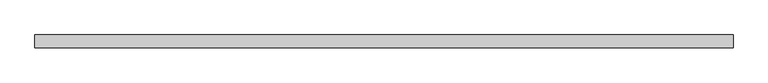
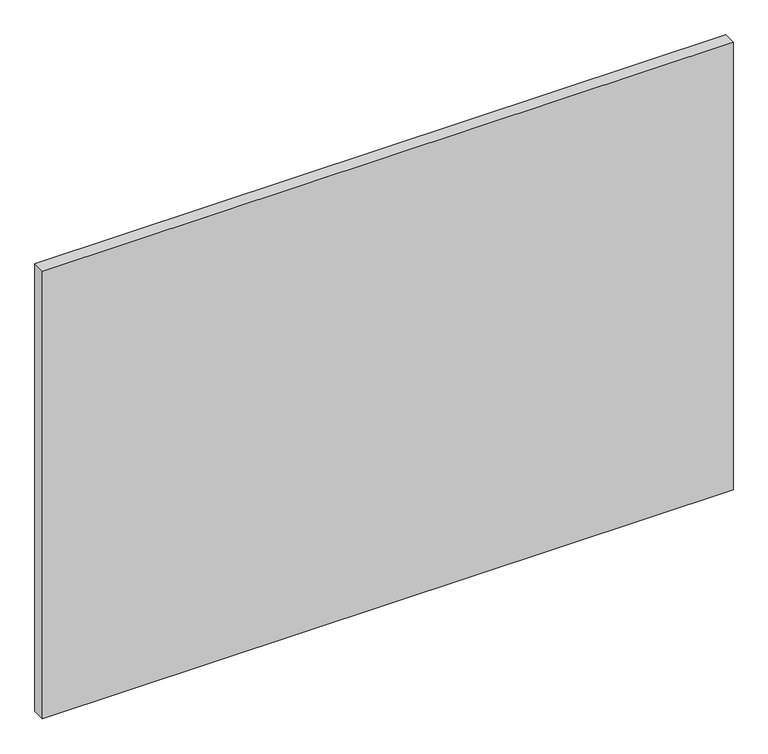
"""IFC4 building model written with IfcOpenShell, lengths in millimetres: plate geometry, Системная панель : ADSK_Cтеклопакет_25."""

import ifcopenshell
import ifcopenshell.guid

model = None  # the IFC model being written
_history = None  # IfcOwnerHistory: only IFC2X3 demands one
_inside = {}  # id of a spatial element -> (the spatial element, [elements in it])
_under = {}  # id of a project, library or spatial element -> (it, [spatial elements below it])
_declared = {}  # id of a project -> (the project, [libraries it declares])
_typed = {}  # id of a type object -> (the type object, [elements of that type])
_made_of = {}  # id of a material, layer set ... -> (it, [elements and type objects made of it])


def new_model(schema):
    """Start an empty IFC model of exactly this schema.

    Asked for "IFC4X3", IfcOpenShell would pick the latest addendum, in which some entities
    have other attributes; the version numbers below select the first issue.
    IFC2X3 requires an IfcOwnerHistory on every rooted entity: one is made here for all.
    """
    global model, _history
    if schema == "IFC4X3":
        model = ifcopenshell.file(schema_version=(4, 3, 0, 0))
    else:
        model = ifcopenshell.file(schema=schema)
    _inside.clear()
    _under.clear()
    _declared.clear()
    _typed.clear()
    _made_of.clear()
    _history = None
    if model.schema == "IFC2X3":
        org = make("IfcOrganization", Name="unknown")
        user = make(
            "IfcPersonAndOrganization",
            ThePerson=make("IfcPerson", FamilyName="unknown"),
            TheOrganization=org,
        )
        app = make(
            "IfcApplication",
            ApplicationDeveloper=org,
            Version="unknown",
            ApplicationFullName="unknown",
            ApplicationIdentifier="unknown",
        )
        _history = make(
            "IfcOwnerHistory",
            OwningUser=user,
            OwningApplication=app,
            ChangeAction="ADDED",
            CreationDate=0,
        )
    return model


def make(cls, **values):
    """One entity of the class cls with the attributes given. An attribute that is None is left unset."""
    return model.create_entity(
        cls, **{name: value for name, value in values.items() if value is not None}
    )


def rooted(cls, **values):
    """An entity with a GlobalId (a new one), such as an element, a storey or a relation."""
    return make(cls, GlobalId=ifcopenshell.guid.new(), OwnerHistory=_history, **values)


def si_unit(unit_type, name, prefix=None):
    """IfcSIUnit, for example si_unit("LENGTHUNIT", "METRE", prefix="MILLI")."""
    return make("IfcSIUnit", UnitType=unit_type, Prefix=prefix, Name=name)


def assignment(units):
    """IfcUnitAssignment: the units of a project."""
    return None if units is None else make("IfcUnitAssignment", Units=units)


def point(xyz):
    """IfcCartesianPoint."""
    return None if xyz is None else make("IfcCartesianPoint", Coordinates=xyz)


def direction(xyz):
    """IfcDirection."""
    return None if xyz is None else make("IfcDirection", DirectionRatios=xyz)


def frame(location, z_axis=None, x_axis=None):
    """IfcAxis2Placement3D, a coordinate frame: its origin and axes. An axis left out is left unset."""
    return make(
        "IfcAxis2Placement3D",
        Location=point(location),
        Axis=direction(z_axis),
        RefDirection=direction(x_axis),
    )


def origin():
    """The frame at (0, 0, 0) with its axes left unset."""
    return frame((0.0, 0.0, 0.0))


def origin_with_axes():
    """The frame at (0, 0, 0) with the z axis (0, 0, 1) and the x axis (1, 0, 0) written out."""
    return frame((0.0, 0.0, 0.0), z_axis=(0.0, 0.0, 1.0), x_axis=(1.0, 0.0, 0.0))


def place(relative_to, where):
    """IfcLocalPlacement: puts the frame where relative to a parent placement (None: the world)."""
    return make(
        "IfcLocalPlacement", PlacementRelTo=relative_to, RelativePlacement=where
    )


def context(
    kind, dimensions, precision=None, world=None, true_north=None, identifier=None
):
    """IfcGeometricRepresentationContext, for example the 3D "Model" context."""
    return make(
        "IfcGeometricRepresentationContext",
        ContextIdentifier=identifier,
        ContextType=kind,
        CoordinateSpaceDimension=dimensions,
        Precision=precision,
        WorldCoordinateSystem=world,
        TrueNorth=true_north,
    )


def project(units=None, contexts=None):
    """IfcProject with its units and contexts."""
    return rooted(
        "IfcProject",
        Name="project",
        RepresentationContexts=contexts,
        UnitsInContext=assignment(units),
    )


def spatial(cls, under=None, at=None, **own):
    """A site, building, storey or space (cls), placed at a placement, below another one or the project."""
    s = rooted(cls, ObjectPlacement=at, **own)
    if under is not None:
        _under.setdefault(under.id(), (under, []))[1].append(s)
    return s


def polyline(points):
    """IfcPolyline through the points."""
    return make("IfcPolyline", Points=[point(p) for p in points])


def outline(outer, holes=None, kind="AREA"):
    """IfcArbitraryClosedProfileDef: a profile drawn as a closed curve; with holes, ...WithVoids."""
    if holes is None:
        return make("IfcArbitraryClosedProfileDef", ProfileType=kind, OuterCurve=outer)
    return make(
        "IfcArbitraryProfileDefWithVoids",
        ProfileType=kind,
        OuterCurve=outer,
        InnerCurves=holes,
    )


def extrude(swept, where, along, depth):
    """IfcExtrudedAreaSolid: the profile swept, set in the frame where, extruded along a direction by depth."""
    return make(
        "IfcExtrudedAreaSolid",
        SweptArea=swept,
        Position=where,
        ExtrudedDirection=direction(along),
        Depth=depth,
    )


def shape(context_of_items, identifier, shape_type, items):
    """IfcShapeRepresentation: the items that make up one representation, for example the "Body"."""
    return make(
        "IfcShapeRepresentation",
        ContextOfItems=context_of_items,
        RepresentationIdentifier=identifier,
        RepresentationType=shape_type,
        Items=items,
    )


def source(mapping_origin, context_of_items, identifier, shape_type, items):
    """IfcRepresentationMap: a shape defined once, which mapped items show again and again."""
    return make(
        "IfcRepresentationMap",
        MappingOrigin=mapping_origin,
        MappedRepresentation=shape(context_of_items, identifier, shape_type, items),
    )


def transform(
    local_origin,
    x_axis=None,
    y_axis=None,
    z_axis=None,
    scale=None,
    scale2=None,
    scale3=None,
    uniform=True,
):
    """IfcCartesianTransformationOperator3D, or its non-uniform kind. x_axis, y_axis, z_axis: its Axis1, 2, 3."""
    if uniform:
        return make(
            "IfcCartesianTransformationOperator3D",
            Axis1=direction(x_axis),
            Axis2=direction(y_axis),
            LocalOrigin=point(local_origin),
            Scale=scale,
            Axis3=direction(z_axis),
        )
    return make(
        "IfcCartesianTransformationOperator3DnonUniform",
        Axis1=direction(x_axis),
        Axis2=direction(y_axis),
        LocalOrigin=point(local_origin),
        Scale=scale,
        Axis3=direction(z_axis),
        Scale2=scale2,
        Scale3=scale3,
    )


def mapped(mapping_source, mapping_target):
    """IfcMappedItem: shows the shape of a source again, moved by a transform."""
    return make(
        "IfcMappedItem", MappingSource=mapping_source, MappingTarget=mapping_target
    )


def made_of(thing, what):
    """Note that an element or type object is made of a material, layer set ...; save() writes the relation."""
    if what is not None:
        _made_of.setdefault(what.id(), (what, []))[1].append(thing)
    return thing


def element(
    cls,
    number,
    at=None,
    inside=None,
    cuts=None,
    type_object=None,
    material=None,
    context=None,
    identifier="Body",
    shape_type=None,
    held_by="IfcProductDefinitionShape",
    body=None,
    shapes=None,
    **own,
):
    """One element of the class cls, such as IfcWall. Its Tag is "e" and its number.

    at: its placement. inside: the storey or other place that contains it. cuts: it is an
    opening in that element (IfcRelVoidsElement). A single representation is given by context,
    identifier, shape_type and body (its items); several are given by shapes. held_by: the class
    of the entity that holds the representations. save() writes the other relations.
    """
    e = rooted(cls, Tag="e%d" % number, ObjectPlacement=at, **own)
    if body is not None:
        shapes = [shape(context, identifier, shape_type, body)]
    if shapes is not None:
        e.Representation = make(held_by, Representations=shapes)
    if inside is not None:
        _inside.setdefault(inside.id(), (inside, []))[1].append(e)
    if cuts is not None:
        rooted(
            "IfcRelVoidsElement", RelatingBuildingElement=cuts, RelatedOpeningElement=e
        )
    if type_object is not None:
        _typed.setdefault(type_object.id(), (type_object, []))[1].append(e)
    return made_of(e, material)


def aggregate(whole, parts):
    """IfcRelAggregates: a whole, such as a stair, and the parts it consists of."""
    return rooted("IfcRelAggregates", RelatingObject=whole, RelatedObjects=parts)


def save(model, path):
    """Write the relations noted so far, then the file.

    IfcRelAggregates (storeys below a building ...), IfcRelContainedInSpatialStructure (elements
    in a storey), IfcRelDefinesByType, IfcRelAssociatesMaterial and IfcRelDeclares: one each for
    every whole, place, type object, material and project.
    """
    for whole, parts in _under.values():
        aggregate(whole, parts)
    for where, things in _inside.values():
        rooted(
            "IfcRelContainedInSpatialStructure",
            RelatedElements=things,
            RelatingStructure=where,
        )
    for kind, things in _typed.values():
        rooted("IfcRelDefinesByType", RelatedObjects=things, RelatingType=kind)
    for what, things in _made_of.values():
        rooted("IfcRelAssociatesMaterial", RelatedObjects=things, RelatingMaterial=what)
    for by, libraries in _declared.values():
        rooted("IfcRelDeclares", RelatingContext=by, RelatedDefinitions=libraries)
    model.write(path)


def plate_77f62aa5(model_context):
    return source(origin(), model_context, "Body", "SweptSolid", [
        extrude(outline(polyline([(675.0, -12.5), (-675.0, -12.5), (-675.0, 12.5), (675.0, 12.5), (675.0, -12.5)])), origin_with_axes(), (0.0, 0.0, 1.0), 925.0),
    ])


if __name__ == "__main__":
    model = new_model("IFC4")
    model_context = context("Model", 3, world=origin())
    ifc_project = project(units=[si_unit("LENGTHUNIT", "METRE", prefix="MILLI")], contexts=[model_context])
    site = spatial("IfcSite", under=ifc_project)
    building = spatial("IfcBuilding", under=site)
    placement = place(None, origin())
    plate_shape = plate_77f62aa5(model_context)
    element("IfcPlate", 1, ObjectType="Системная панель : ADSK_Cтеклопакет_25", at=placement, inside=building, context=model_context, shape_type="MappedRepresentation", body=[
        mapped(plate_shape, transform((0.0, 0.0, 0.0), x_axis=(1.0, 0.0, 0.0), y_axis=(0.0, 1.0, 0.0), z_axis=(0.0, 0.0, 1.0))),
    ])
    save(model, "model.ifc")
